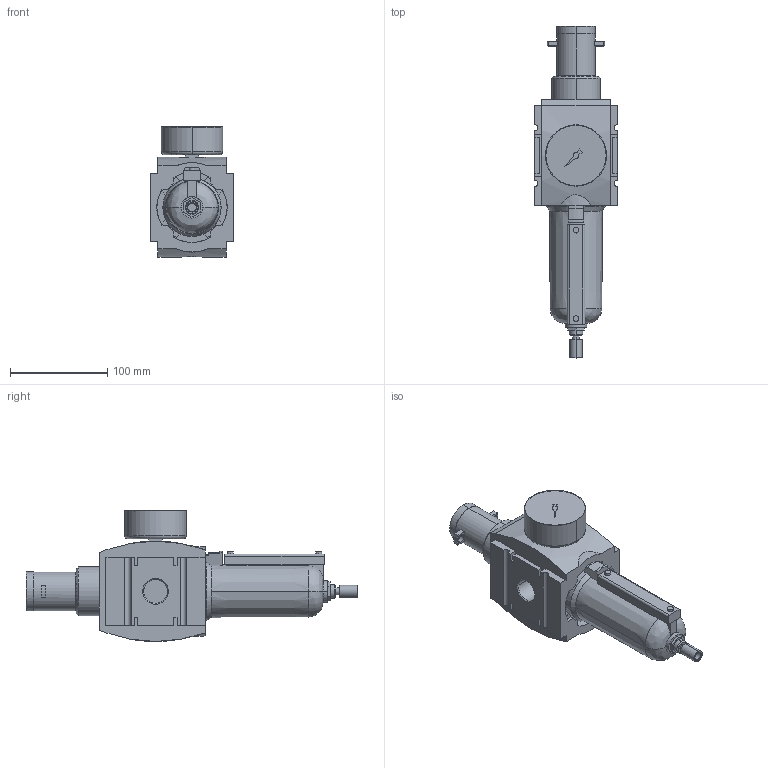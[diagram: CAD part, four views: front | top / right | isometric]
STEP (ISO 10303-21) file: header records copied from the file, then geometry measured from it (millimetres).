
FILE_DESCRIPTION((''),'2;1');
FILE_NAME('R412009207_ASM','2019-08-28T',('PDH2HC'),(''),'CREO PARAMETRIC BY PTC INC, 2016260','CREO PARAMETRIC BY PTC INC, 2016260','');
FILE_SCHEMA(('CONFIG_CONTROL_DESIGN'));
Length unit declared in the file: millimetre
Products named in the file (5): R412009207; R412004423; AS5_PLUG_14; AS5_RES_METAL_FILTER_FULLY; R412009207_ASM
Assembly tree (4 placements, depth 2):
  R412009207_ASM
    R412009207
    R412004423
    AS5_PLUG_14
    AS5_RES_METAL_FILTER_FULLY
Bounding box: 85 x 341 x 134.5 mm (x, y, z)
Volume: 1275022.3 mm3; surface area: 131883 mm2
Topology: 4 solids, 4 shells, 303 faces, 745 edges, 484 vertices
Faces by surface type: plane 180, cylinder 84, cone 33, torus 4, bspline 2
Entity records: 9564 total; most frequent: CARTESIAN_POINT 2048, DIRECTION 1597, ORIENTED_EDGE 1490, EDGE_CURVE 745, AXIS2_PLACEMENT_3D 554, VECTOR 489, LINE 489, VERTEX_POINT 484
